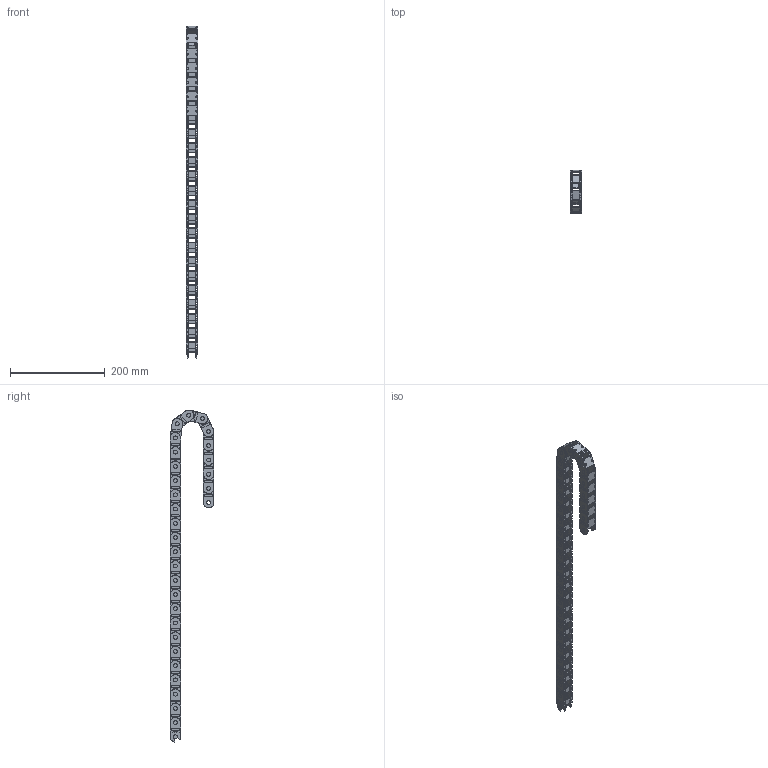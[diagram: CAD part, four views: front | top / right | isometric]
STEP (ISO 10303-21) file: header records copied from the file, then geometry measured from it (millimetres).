
FILE_DESCRIPTION (( 'STEP AP203' ), '1' );
FILE_NAME ('22.025.4-R35.STEP', '2025-04-15T08:45:30', ( '' ), ( '' ), 'SwSTEP 2.0', 'SolidWorks 2023', '' );
FILE_SCHEMA (( 'CONFIG_CONTROL_DESIGN' ));
Length unit declared in the file: millimetre
Products named in the file (3): 22.025.4_100981; Kopie von Kettenglied_Kettenvorlage_Kolibri^Unterbaugruppe_TD000008; 22.025.4-R35
Assembly tree (31 placements, depth 3):
  22.025.4-R35
    Kopie von Kettenglied_Kettenvorlage_Kolibri^Unterbaugruppe_TD000008  x30
      22.025.4_100981
Bounding box: 25 x 92 x 699.55 mm (x, y, z)
Volume: 189233.4 mm3; surface area: 199738.9 mm2
Topology: 30 solids, 30 shells, 2820 faces, 8280 edges, 5520 vertices
Faces by surface type: plane 1650, cylinder 1170
Entity records: 4409 total; most frequent: CARTESIAN_POINT 637, DIRECTION 610, ORIENTED_EDGE 552, EDGE_CURVE 276, AXIS2_PLACEMENT_3D 221, VERTEX_POINT 184, VECTOR 168, LINE 168
